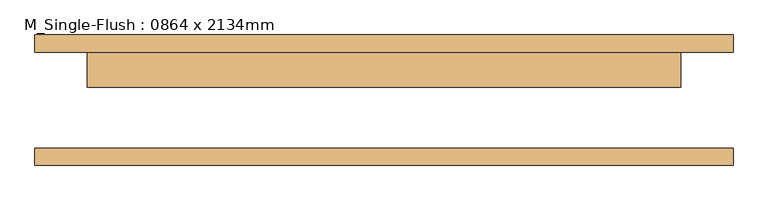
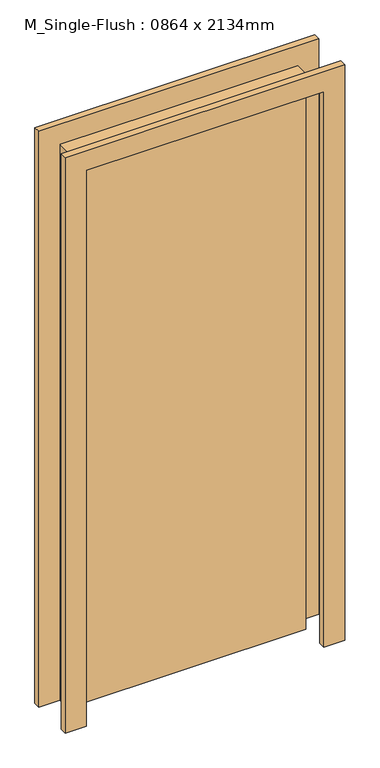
"""IFC4 building model written with IfcOpenShell, lengths in millimetres: door geometry, M_Single-Flush : 0864 x 2134mm."""

from ifc_helpers import new_model, si_unit, frame, origin, origin_with_axes, place, context, project, spatial, polyline, outline, extrude, source, transform, mapped, element, save


def m_single_flush_0864_x_2134mm_1f46d79d(model_context):
    return source(origin(), model_context, "Body", "SweptSolid", [
        extrude(outline(polyline([(2210.0, -508.0), (0.0, -508.0), (0.0, -432.0), (2134.0, -432.0), (2134.0, 432.0), (0.0, 432.0), (0.0, 508.0), (2210.0, 508.0), (2210.0, -508.0)])), frame((0.0, 70.0, 0.0), z_axis=(0.0, 1.0, 0.0), x_axis=(0.0, 0.0, 1.0)), (0.0, 0.0, 1.0), 25.0),
        extrude(outline(polyline([(2210.0, 508.0), (2210.0, -508.0), (0.0, -508.0), (0.0, -432.0), (2134.0, -432.0), (2134.0, 432.0), (0.0, 432.0), (0.0, 508.0), (2210.0, 508.0)])), frame((0.0, -95.0, 0.0), z_axis=(0.0, 1.0, 0.0), x_axis=(0.0, 0.0, 1.0)), (0.0, 0.0, 1.0), 25.0),
        extrude(outline(polyline([(432.0, 19.0), (-432.0, 19.0), (-432.0, 70.0), (432.0, 70.0), (432.0, 19.0)])), origin_with_axes(), (0.0, 0.0, 1.0), 2134.0),
    ])


if __name__ == "__main__":
    model = new_model("IFC4")
    model_context = context("Model", 3, world=origin())
    ifc_project = project(units=[si_unit("LENGTHUNIT", "METRE", prefix="MILLI")], contexts=[model_context])
    site = spatial("IfcSite", under=ifc_project)
    building = spatial("IfcBuilding", under=site)
    placement = place(None, origin())
    m_single_flush_0864_x_2134mm_shape = m_single_flush_0864_x_2134mm_1f46d79d(model_context)
    element("IfcDoor", 1, ObjectType="M_Single-Flush : 0864 x 2134mm", at=placement, inside=building, context=model_context, shape_type="MappedRepresentation", body=[
        mapped(m_single_flush_0864_x_2134mm_shape, transform((0.0, 0.0, 0.0), x_axis=(1.0, 0.0, 0.0), y_axis=(0.0, 1.0, 0.0), z_axis=(0.0, 0.0, 1.0))),
    ])
    save(model, "model.ifc")
